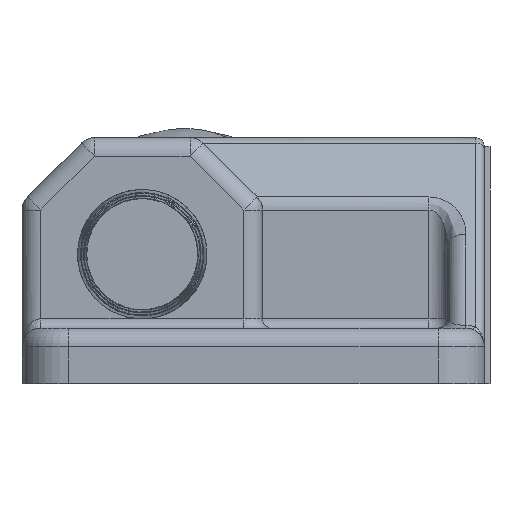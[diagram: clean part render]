
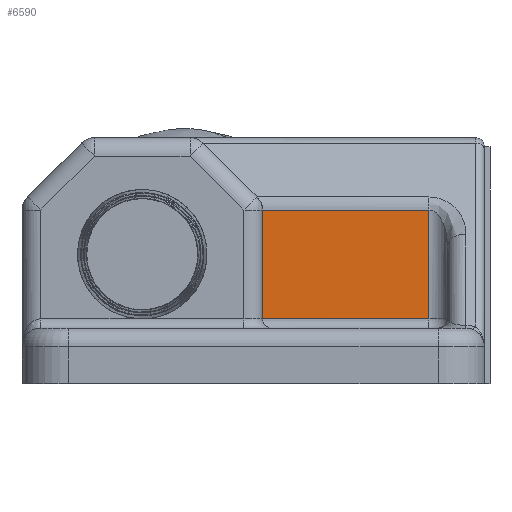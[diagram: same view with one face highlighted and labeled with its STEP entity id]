
A CAD part, left-side view. The second image highlights one B-rep face of the part: STEP entity #6590.
In plain terms, the highlighted planar face has unit normal (-1, 0, 0).
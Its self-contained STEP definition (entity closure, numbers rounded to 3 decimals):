
#32 = EDGE_CURVE ( 'NONE', #624, #783, #2854, .T. ) ;
#41 = EDGE_CURVE ( 'NONE', #708, #624, #2726, .T. ) ;
#562 = CARTESIAN_POINT ( 'NONE',  ( 10., 12., 9.386 ) ) ;
#572 = DIRECTION ( 'NONE',  ( 0., 1., 0. ) ) ;
#574 = CARTESIAN_POINT ( 'NONE',  ( 10., 12., 9.8 ) ) ;
#583 = DIRECTION ( 'NONE',  ( 0., 0., 1. ) ) ;
#624 = VERTEX_POINT ( 'NONE', #5541 ) ;
#708 = VERTEX_POINT ( 'NONE', #5842 ) ;
#783 = VERTEX_POINT ( 'NONE', #5779 ) ;
#820 = VERTEX_POINT ( 'NONE', #5759 ) ;
#1055 = EDGE_CURVE ( 'NONE', #783, #820, #2776, .T. ) ;
#1122 = EDGE_CURVE ( 'NONE', #708, #820, #2509, .T. ) ;
#1842 = FACE_OUTER_BOUND ( 'NONE', #3651, .T. ) ;
#2509 = LINE ( 'NONE', #574, #2515 ) ;
#2515 = VECTOR ( 'NONE', #583, 1000. ) ;
#2700 = VECTOR ( 'NONE', #5666, 1000. ) ;
#2726 = LINE ( 'NONE', #5889, #2700 ) ;
#2776 = LINE ( 'NONE', #562, #2783 ) ;
#2783 = VECTOR ( 'NONE', #572, 1000. ) ;
#2847 = VECTOR ( 'NONE', #5849, 1000. ) ;
#2854 = LINE ( 'NONE', #5456, #2847 ) ;
#2997 = AXIS2_PLACEMENT_3D ( 'NONE', #6417, #6326, #6316 ) ;
#3296 = ORIENTED_EDGE ( 'NONE', *, *, #1122, .F. ) ;
#3462 = ORIENTED_EDGE ( 'NONE', *, *, #41, .T. ) ;
#3651 = EDGE_LOOP ( 'NONE', ( #3296, #3462, #5113, #5025 ) ) ;
#5025 = ORIENTED_EDGE ( 'NONE', *, *, #1055, .T. ) ;
#5113 = ORIENTED_EDGE ( 'NONE', *, *, #32, .T. ) ;
#5456 = CARTESIAN_POINT ( 'NONE',  ( 10., 3., 9.8 ) ) ;
#5541 = CARTESIAN_POINT ( 'NONE',  ( 10., 3., 3.5 ) ) ;
#5666 = DIRECTION ( 'NONE',  ( 0., -1., 0. ) ) ;
#5759 = CARTESIAN_POINT ( 'NONE',  ( 10., 12., 9.386 ) ) ;
#5779 = CARTESIAN_POINT ( 'NONE',  ( 10., 3., 9.386 ) ) ;
#5842 = CARTESIAN_POINT ( 'NONE',  ( 10., 12., 3.5 ) ) ;
#5849 = DIRECTION ( 'NONE',  ( 0., 0., 1. ) ) ;
#5889 = CARTESIAN_POINT ( 'NONE',  ( 10., 3., 3.5 ) ) ;
#6298 = PLANE ( 'NONE',  #2997 ) ;
#6316 = DIRECTION ( 'NONE',  ( 0., 0., -1. ) ) ;
#6326 = DIRECTION ( 'NONE',  ( 1., 0., 0. ) ) ;
#6417 = CARTESIAN_POINT ( 'NONE',  ( 10., 25., 3. ) ) ;
#6590 = ADVANCED_FACE ( 'NONE', ( #1842 ), #6298, .F. ) ;
